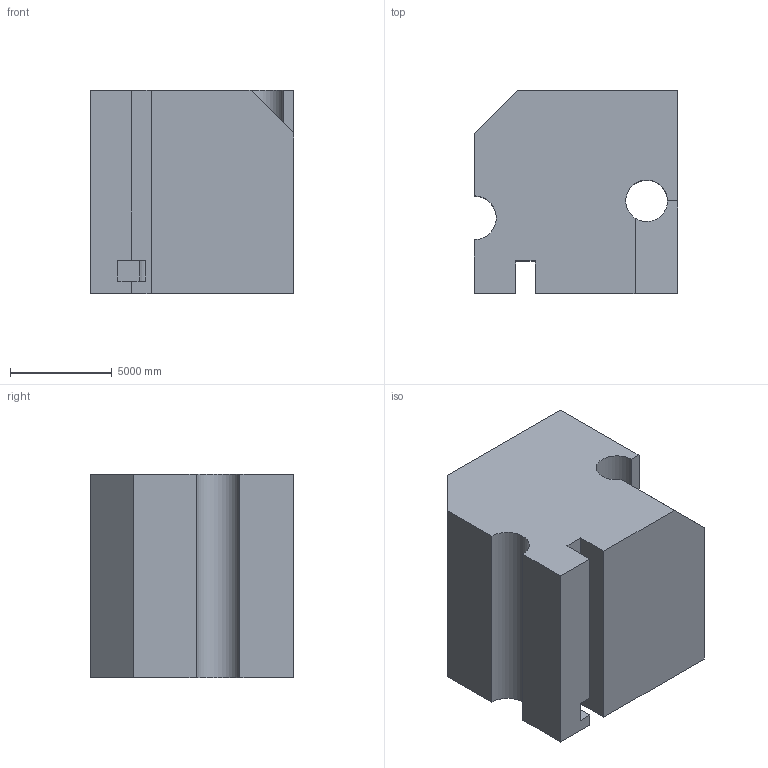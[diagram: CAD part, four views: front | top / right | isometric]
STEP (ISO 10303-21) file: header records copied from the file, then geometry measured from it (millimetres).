
FILE_DESCRIPTION (( 'STEP AP203' ), '1' );
FILE_NAME ('1801.STEP', '2022-08-25T15:49:59', ( 'user' ), ( '' ), 'SwSTEP 2.0', 'SolidWorks 2021', '' );
FILE_SCHEMA (( 'CONFIG_CONTROL_DESIGN' ));
Length unit declared in the file: centimetre
Products named in the file (1): 1801
Bounding box: 10000 x 10000 x 10000 mm (x, y, z)
Volume: 851518244806.1 mm3; surface area: 767857423 mm2
Topology: 1 solids, 1 shells, 33 faces, 96 edges, 64 vertices
Faces by surface type: plane 26, cylinder 7
Entity records: 1176 total; most frequent: CARTESIAN_POINT 197, ORIENTED_EDGE 192, DIRECTION 184, EDGE_CURVE 96, LINE 74, VECTOR 74, VERTEX_POINT 64, AXIS2_PLACEMENT_3D 55
